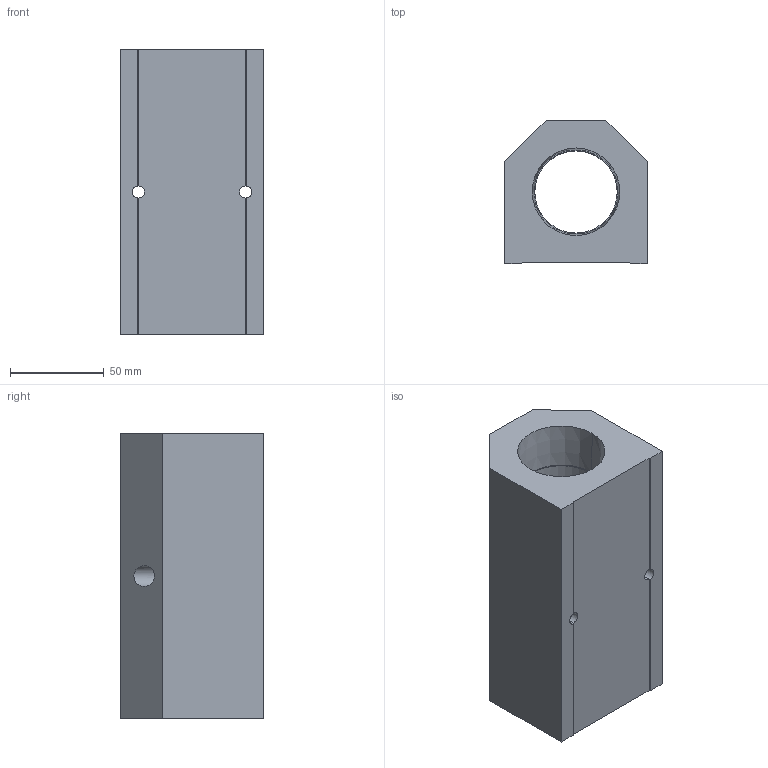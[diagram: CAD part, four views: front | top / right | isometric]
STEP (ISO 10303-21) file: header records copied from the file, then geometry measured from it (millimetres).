
FILE_DESCRIPTION (( 'STEP AP214' ), '1' );
FILE_NAME ('ALM2C-N8N24-152R.step', '2022-02-07T09:23:15', ( '' ), ( '' ), 'SwSTEP 2.0', 'SolidWorks 2020', '' );
FILE_SCHEMA (( 'AUTOMOTIVE_DESIGN' ));
Length unit declared in the file: millimetre
Products named in the file (1): ALM2C-N8N24-152R
Bounding box: 76.2 x 76.2 x 152 mm (x, y, z)
Volume: 549917.7 mm3; surface area: 74664.9 mm2
Topology: 1 solids, 1 shells, 269 faces, 710 edges, 472 vertices
Faces by surface type: plane 190, bspline 61, cylinder 10, cone 8
Entity records: 14937 total; most frequent: CARTESIAN_POINT 6049, ORIENTED_EDGE 1420, DIRECTION 1022, EDGE_CURVE 710, VECTOR 548, LINE 548, VERTEX_POINT 472, EDGE_LOOP 308
